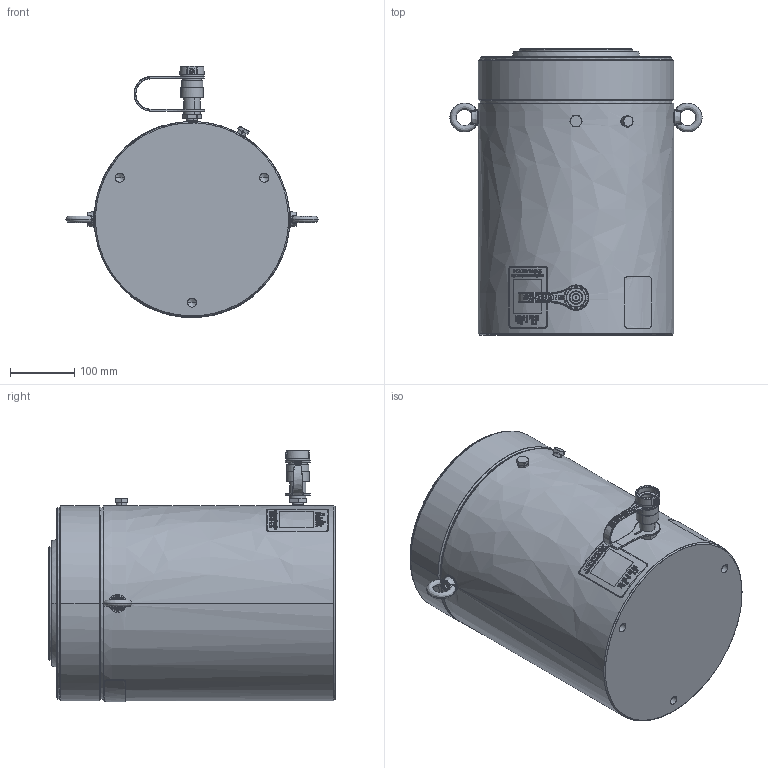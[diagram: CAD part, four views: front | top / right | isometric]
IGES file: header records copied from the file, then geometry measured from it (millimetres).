
Start section:  PTC IGES file: hcg3008.igs
Global section: file name: hcg3008.igs; native system: Creo Parametric by PTC Inc.; preprocessor: 2015290; author: Akhilesh.Subrahmanya; organization: Unknown; date: 20170720.085339; units: millimetre
Bounding box: 392.91 x 446 x 391.68 mm (x, y, z)
Surface area: 1141267.8 mm2 (no closed solid volume)
Topology: 0 solids, 0 shells, 734 faces, 6221 edges, 6206 vertices
Faces by surface type: revolution 424, bspline 304, extrusion 6
